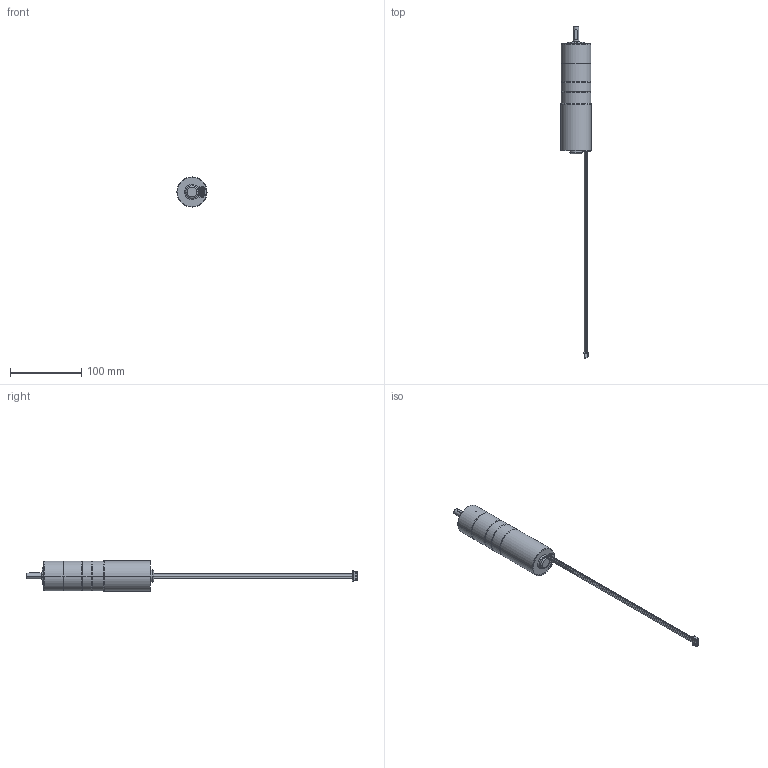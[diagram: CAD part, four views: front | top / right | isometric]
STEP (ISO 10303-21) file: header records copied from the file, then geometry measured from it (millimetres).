
FILE_DESCRIPTION((''),'2;1');
FILE_NAME('ACD_000_ASM','2024-01-17T16:06:41',('Danny.Guo'),(''),'CREO PARAMETRIC BY PTC INC, 2020414','CREO PARAMETRIC BY PTC INC, 2020414','');
FILE_SCHEMA(('CONFIG_CONTROL_DESIGN'));
Length unit declared in the file: millimetre
Products named in the file (3): ACD_000; XHP-5_0; ACD_000_ASM
Assembly tree (2 placements, depth 2):
  ACD_000_ASM
    ACD_000
    XHP-5_0
Bounding box: 42.4 x 466.45 x 42.4 mm (x, y, z)
Volume: 211701.9 mm3; surface area: 39635.3 mm2
Topology: 2 solids, 6 shells, 285 faces, 693 edges, 448 vertices
Faces by surface type: plane 157, cylinder 91, cone 32, torus 5
Entity records: 8440 total; most frequent: DIRECTION 1494, CARTESIAN_POINT 1490, ORIENTED_EDGE 1354, EDGE_CURVE 685, AXIS2_PLACEMENT_3D 527, VERTEX_POINT 448, VECTOR 440, LINE 440
